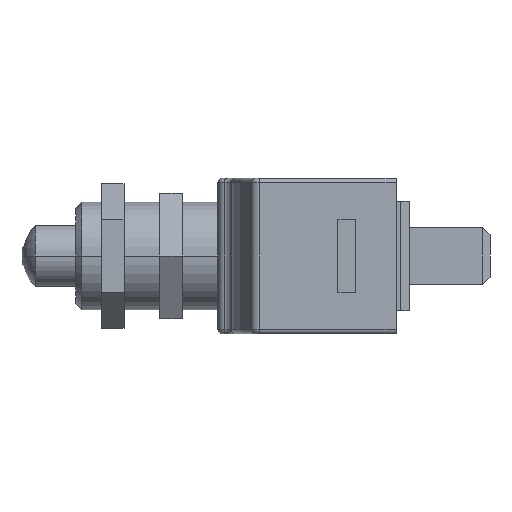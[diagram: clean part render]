
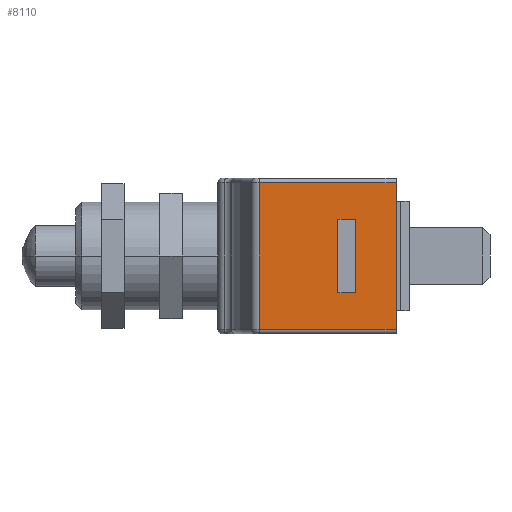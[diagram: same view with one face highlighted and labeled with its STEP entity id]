
A CAD part, left-side view. The second image highlights one B-rep face of the part: STEP entity #8110.
In plain terms, the highlighted planar face has unit normal (-1, 0, 0).
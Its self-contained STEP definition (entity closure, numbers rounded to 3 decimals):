
#7981 = ORIENTED_EDGE ( 'NONE', *, *, #7982, .F. ) ;
#7982 = EDGE_CURVE ( 'NONE', #8024, #8025, #13746, .T. ) ;
#8024 = VERTEX_POINT ( 'NONE', #13830 ) ;
#8025 = VERTEX_POINT ( 'NONE', #13829 ) ;
#8026 = EDGE_CURVE ( 'NONE', #8088, #8083, #13828, .T. ) ;
#8027 = ORIENTED_EDGE ( 'NONE', *, *, #8028, .T. ) ;
#8028 = EDGE_CURVE ( 'NONE', #8024, #8088, #13824, .T. ) ;
#8029 = ORIENTED_EDGE ( 'NONE', *, *, #8030, .T. ) ;
#8030 = EDGE_CURVE ( 'NONE', #8046, #8049, #13820, .T. ) ;
#8031 = ORIENTED_EDGE ( 'NONE', *, *, #8032, .T. ) ;
#8032 = EDGE_CURVE ( 'NONE', #8049, #8033, #13816, .T. ) ;
#8033 = VERTEX_POINT ( 'NONE', #13812 ) ;
#8034 = ORIENTED_EDGE ( 'NONE', *, *, #8026, .T. ) ;
#8035 = EDGE_CURVE ( 'NONE', #8083, #8025, #13873, .T. ) ;
#8036 = ORIENTED_EDGE ( 'NONE', *, *, #8035, .T. ) ;
#8046 = VERTEX_POINT ( 'NONE', #13852 ) ;
#8047 = EDGE_LOOP ( 'NONE', ( #8029, #8031, #8090, #8093 ) ) ;
#8048 = EDGE_LOOP ( 'NONE', ( #8034, #8036, #7981, #8027 ) ) ;
#8049 = VERTEX_POINT ( 'NONE', #13851 ) ;
#8083 = VERTEX_POINT ( 'NONE', #13953 ) ;
#8088 = VERTEX_POINT ( 'NONE', #13679 ) ;
#8090 = ORIENTED_EDGE ( 'NONE', *, *, #8091, .T. ) ;
#8091 = EDGE_CURVE ( 'NONE', #8033, #8092, #14006, .T. ) ;
#8092 = VERTEX_POINT ( 'NONE', #14002 ) ;
#8093 = ORIENTED_EDGE ( 'NONE', *, *, #8094, .T. ) ;
#8094 = EDGE_CURVE ( 'NONE', #8092, #8046, #14001, .T. ) ;
#8110 = ADVANCED_FACE ( 'NONE', ( #14022, #14021 ), #14020, .F. ) ;
#13679 = CARTESIAN_POINT ( 'NONE',  ( -35.2, 11.461, 8.2 ) ) ;
#13731 = DIRECTION ( 'NONE',  ( 0., 0., -1. ) ) ;
#13744 = VECTOR ( 'NONE', #13731, 1000. ) ;
#13745 = CARTESIAN_POINT ( 'NONE',  ( -35.2, -3.8, 8.7 ) ) ;
#13746 = LINE ( 'NONE', #13745, #13744 ) ;
#13812 = CARTESIAN_POINT ( 'NONE',  ( -35.2, 0.7, -4.1 ) ) ;
#13813 = DIRECTION ( 'NONE',  ( 0., 0., -1. ) ) ;
#13814 = VECTOR ( 'NONE', #13813, 1000. ) ;
#13815 = CARTESIAN_POINT ( 'NONE',  ( -35.2, 0.7, 4.1 ) ) ;
#13816 = LINE ( 'NONE', #13815, #13814 ) ;
#13817 = DIRECTION ( 'NONE',  ( 0., -1., 0. ) ) ;
#13818 = VECTOR ( 'NONE', #13817, 1000. ) ;
#13819 = CARTESIAN_POINT ( 'NONE',  ( -35.2, 2.7, 4.1 ) ) ;
#13820 = LINE ( 'NONE', #13819, #13818 ) ;
#13821 = DIRECTION ( 'NONE',  ( 0., 1., 0. ) ) ;
#13822 = VECTOR ( 'NONE', #13821, 1000. ) ;
#13823 = CARTESIAN_POINT ( 'NONE',  ( -35.2, 11.461, 8.2 ) ) ;
#13824 = LINE ( 'NONE', #13823, #13822 ) ;
#13825 = DIRECTION ( 'NONE',  ( 0., 0., -1. ) ) ;
#13826 = VECTOR ( 'NONE', #13825, 1000. ) ;
#13827 = CARTESIAN_POINT ( 'NONE',  ( -35.2, 11.461, 8.7 ) ) ;
#13828 = LINE ( 'NONE', #13827, #13826 ) ;
#13829 = CARTESIAN_POINT ( 'NONE',  ( -35.2, -3.8, -8.2 ) ) ;
#13830 = CARTESIAN_POINT ( 'NONE',  ( -35.2, -3.8, 8.2 ) ) ;
#13851 = CARTESIAN_POINT ( 'NONE',  ( -35.2, 0.7, 4.1 ) ) ;
#13852 = CARTESIAN_POINT ( 'NONE',  ( -35.2, 2.7, 4.1 ) ) ;
#13870 = DIRECTION ( 'NONE',  ( 0., -1., 0. ) ) ;
#13871 = VECTOR ( 'NONE', #13870, 1000. ) ;
#13872 = CARTESIAN_POINT ( 'NONE',  ( -35.2, 11.461, -8.2 ) ) ;
#13873 = LINE ( 'NONE', #13872, #13871 ) ;
#13953 = CARTESIAN_POINT ( 'NONE',  ( -35.2, 11.461, -8.2 ) ) ;
#13998 = DIRECTION ( 'NONE',  ( 0., 0., 1. ) ) ;
#13999 = VECTOR ( 'NONE', #13998, 1000. ) ;
#14000 = CARTESIAN_POINT ( 'NONE',  ( -35.2, 2.7, 4.1 ) ) ;
#14001 = LINE ( 'NONE', #14000, #13999 ) ;
#14002 = CARTESIAN_POINT ( 'NONE',  ( -35.2, 2.7, -4.1 ) ) ;
#14003 = DIRECTION ( 'NONE',  ( 0., 1., 0. ) ) ;
#14004 = VECTOR ( 'NONE', #14003, 1000. ) ;
#14005 = CARTESIAN_POINT ( 'NONE',  ( -35.2, 2.7, -4.1 ) ) ;
#14006 = LINE ( 'NONE', #14005, #14004 ) ;
#14016 = DIRECTION ( 'NONE',  ( 0., 0., -1. ) ) ;
#14017 = DIRECTION ( 'NONE',  ( 1., 0., 0. ) ) ;
#14018 = CARTESIAN_POINT ( 'NONE',  ( -35.2, 11.461, 8.7 ) ) ;
#14019 = AXIS2_PLACEMENT_3D ( 'NONE', #14018, #14017, #14016 ) ;
#14020 = PLANE ( 'NONE',  #14019 ) ;
#14021 = FACE_BOUND ( 'NONE', #8047, .T. ) ;
#14022 = FACE_OUTER_BOUND ( 'NONE', #8048, .T. ) ;
